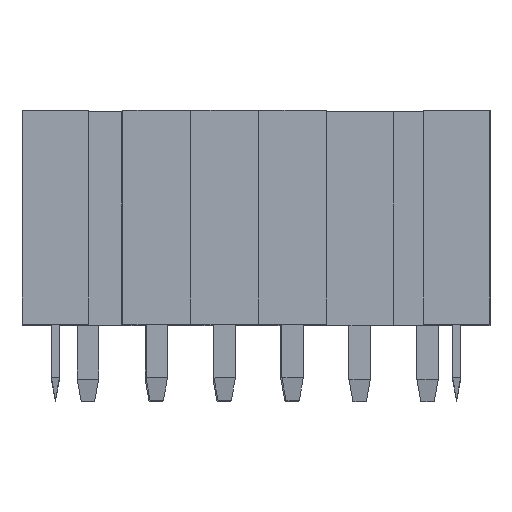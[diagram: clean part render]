
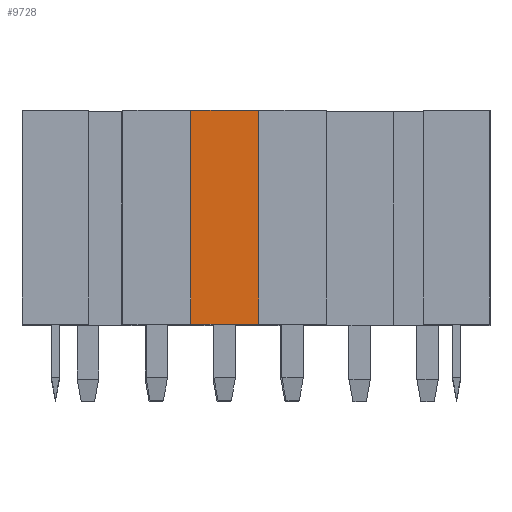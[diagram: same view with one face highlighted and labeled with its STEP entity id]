
A CAD part, top view. The second image highlights one B-rep face of the part: STEP entity #9728.
In plain terms, the highlighted planar face has unit normal (0, 0, 1).
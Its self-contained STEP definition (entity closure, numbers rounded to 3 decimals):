
#530=FACE_OUTER_BOUND('',#1153,.T.);
#1153=EDGE_LOOP('',(#7791,#7792,#7793,#7794));
#2193=LINE('',#14843,#3495);
#2220=LINE('',#14899,#3522);
#2221=LINE('',#14900,#3523);
#2222=LINE('',#14901,#3524);
#3495=VECTOR('',#12186,10.);
#3522=VECTOR('',#12239,10.);
#3523=VECTOR('',#12240,10.);
#3524=VECTOR('',#12241,10.);
#4481=VERTEX_POINT('',#14836);
#4484=VERTEX_POINT('',#14841);
#4499=VERTEX_POINT('',#14897);
#4500=VERTEX_POINT('',#14898);
#5595=EDGE_CURVE('',#4484,#4481,#2193,.T.);
#5622=EDGE_CURVE('',#4499,#4500,#2220,.T.);
#5623=EDGE_CURVE('',#4500,#4481,#2221,.T.);
#5624=EDGE_CURVE('',#4499,#4484,#2222,.T.);
#7791=ORIENTED_EDGE('',*,*,#5622,.T.);
#7792=ORIENTED_EDGE('',*,*,#5623,.T.);
#7793=ORIENTED_EDGE('',*,*,#5595,.F.);
#7794=ORIENTED_EDGE('',*,*,#5624,.F.);
#9119=PLANE('',#10382);
#9728=ADVANCED_FACE('',(#530),#9119,.T.);
#10382=AXIS2_PLACEMENT_3D('',#14896,#12237,#12238);
#12186=DIRECTION('',(1.,0.,0.));
#12237=DIRECTION('center_axis',(0.,0.,1.));
#12238=DIRECTION('ref_axis',(1.,0.,0.));
#12239=DIRECTION('',(1.,0.,0.));
#12240=DIRECTION('',(0.,1.,0.));
#12241=DIRECTION('',(0.,1.,0.));
#14836=CARTESIAN_POINT('',(3.81,8.,1.25));
#14841=CARTESIAN_POINT('',(1.27,8.,1.25));
#14843=CARTESIAN_POINT('',(1.27,8.,1.25));
#14896=CARTESIAN_POINT('Origin',(1.27,0.,1.25));
#14897=CARTESIAN_POINT('',(1.27,0.,1.25));
#14898=CARTESIAN_POINT('',(3.81,0.,1.25));
#14899=CARTESIAN_POINT('',(1.27,0.,1.25));
#14900=CARTESIAN_POINT('',(3.81,0.,1.25));
#14901=CARTESIAN_POINT('',(1.27,0.,1.25));
